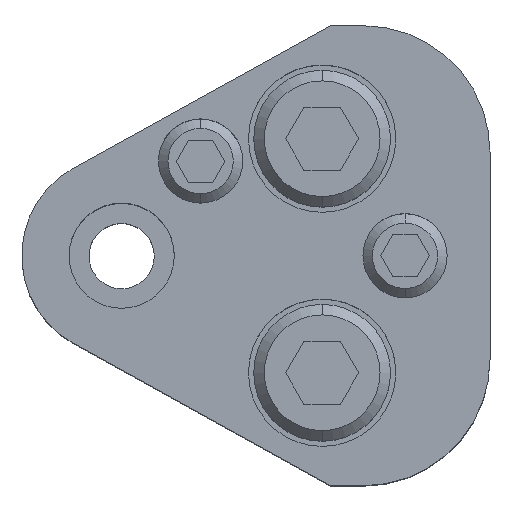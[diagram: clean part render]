
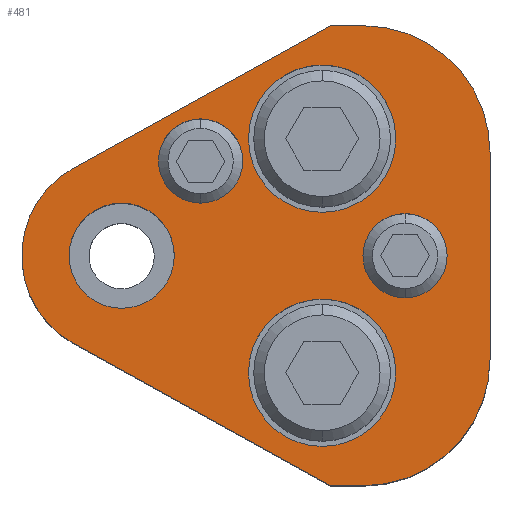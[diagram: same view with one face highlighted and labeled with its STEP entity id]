
A CAD part, top view. The second image highlights one B-rep face of the part: STEP entity #481.
In plain terms, the highlighted planar face has unit normal (0, 0, 1).
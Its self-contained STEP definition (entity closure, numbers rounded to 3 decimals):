
#213=FACE_BOUND('',#843,.T.);
#214=FACE_BOUND('',#844,.T.);
#215=FACE_BOUND('',#845,.T.);
#216=FACE_BOUND('',#846,.T.);
#217=FACE_BOUND('',#847,.T.);
#218=FACE_BOUND('',#848,.T.);
#303=CIRCLE('',#2712,12.);
#305=CIRCLE('',#2716,12.);
#308=CIRCLE('',#2722,9.5);
#309=CIRCLE('',#2724,4.);
#311=CIRCLE('',#2727,4.);
#313=CIRCLE('',#2730,4.);
#315=CIRCLE('',#2733,4.);
#325=CIRCLE('',#2748,7.);
#326=CIRCLE('',#2749,7.);
#327=CIRCLE('',#2750,7.);
#328=CIRCLE('',#2751,7.);
#329=CIRCLE('',#2752,5.);
#330=CIRCLE('',#2753,5.);
#481=ADVANCED_FACE('',(#213,#214,#215,#216,#217,#218),#595,.T.);
#595=PLANE('',#2754);
#843=EDGE_LOOP('',(#1257,#1258,#1259,#1260,#1261,#1262,#1263,#1264));
#844=EDGE_LOOP('',(#1265,#1266));
#845=EDGE_LOOP('',(#1267,#1268));
#846=EDGE_LOOP('',(#1269,#1270));
#847=EDGE_LOOP('',(#1271,#1272));
#848=EDGE_LOOP('',(#1273,#1274));
#1257=ORIENTED_EDGE('',*,*,#1996,.T.);
#1258=ORIENTED_EDGE('',*,*,#2000,.T.);
#1259=ORIENTED_EDGE('',*,*,#2003,.T.);
#1260=ORIENTED_EDGE('',*,*,#2006,.T.);
#1261=ORIENTED_EDGE('',*,*,#2009,.T.);
#1262=ORIENTED_EDGE('',*,*,#2012,.T.);
#1263=ORIENTED_EDGE('',*,*,#2015,.T.);
#1264=ORIENTED_EDGE('',*,*,#2018,.T.);
#1265=ORIENTED_EDGE('',*,*,#2043,.F.);
#1266=ORIENTED_EDGE('',*,*,#2044,.F.);
#1267=ORIENTED_EDGE('',*,*,#2045,.F.);
#1268=ORIENTED_EDGE('',*,*,#2046,.F.);
#1269=ORIENTED_EDGE('',*,*,#2029,.F.);
#1270=ORIENTED_EDGE('',*,*,#2025,.F.);
#1271=ORIENTED_EDGE('',*,*,#2023,.F.);
#1272=ORIENTED_EDGE('',*,*,#2019,.F.);
#1273=ORIENTED_EDGE('',*,*,#2047,.T.);
#1274=ORIENTED_EDGE('',*,*,#2048,.T.);
#1728=VERTEX_POINT('',#4024);
#1729=VERTEX_POINT('',#4026);
#1732=VERTEX_POINT('',#4033);
#1734=VERTEX_POINT('',#4039);
#1736=VERTEX_POINT('',#4045);
#1738=VERTEX_POINT('',#4051);
#1740=VERTEX_POINT('',#4057);
#1742=VERTEX_POINT('',#4063);
#1743=VERTEX_POINT('',#4071);
#1744=VERTEX_POINT('',#4072);
#1747=VERTEX_POINT('',#4083);
#1748=VERTEX_POINT('',#4084);
#1759=VERTEX_POINT('',#4119);
#1760=VERTEX_POINT('',#4120);
#1761=VERTEX_POINT('',#4123);
#1762=VERTEX_POINT('',#4124);
#1763=VERTEX_POINT('',#4127);
#1764=VERTEX_POINT('',#4128);
#1996=EDGE_CURVE('',#1729,#1728,#2294,.T.);
#2000=EDGE_CURVE('',#1728,#1732,#2298,.T.);
#2003=EDGE_CURVE('',#1732,#1734,#303,.T.);
#2006=EDGE_CURVE('',#1734,#1736,#2302,.T.);
#2009=EDGE_CURVE('',#1736,#1738,#305,.T.);
#2012=EDGE_CURVE('',#1738,#1740,#2306,.T.);
#2015=EDGE_CURVE('',#1740,#1742,#2309,.T.);
#2018=EDGE_CURVE('',#1742,#1729,#308,.T.);
#2019=EDGE_CURVE('',#1743,#1744,#309,.T.);
#2023=EDGE_CURVE('',#1744,#1743,#311,.T.);
#2025=EDGE_CURVE('',#1747,#1748,#313,.T.);
#2029=EDGE_CURVE('',#1748,#1747,#315,.T.);
#2043=EDGE_CURVE('',#1759,#1760,#325,.T.);
#2044=EDGE_CURVE('',#1760,#1759,#326,.T.);
#2045=EDGE_CURVE('',#1761,#1762,#327,.T.);
#2046=EDGE_CURVE('',#1762,#1761,#328,.T.);
#2047=EDGE_CURVE('',#1763,#1764,#329,.T.);
#2048=EDGE_CURVE('',#1764,#1763,#330,.T.);
#2294=LINE('',#4025,#2486);
#2298=LINE('',#4034,#2490);
#2302=LINE('',#4046,#2494);
#2306=LINE('',#4058,#2498);
#2309=LINE('',#4064,#2501);
#2486=VECTOR('',#3186,1.);
#2490=VECTOR('',#3192,1.);
#2494=VECTOR('',#3204,1.);
#2498=VECTOR('',#3216,1.);
#2501=VECTOR('',#3221,1.);
#2712=AXIS2_PLACEMENT_3D('',#4040,#3197,#3198);
#2716=AXIS2_PLACEMENT_3D('',#4052,#3209,#3210);
#2722=AXIS2_PLACEMENT_3D('',#4068,#3227,#3228);
#2724=AXIS2_PLACEMENT_3D('',#4070,#3231,#3232);
#2727=AXIS2_PLACEMENT_3D('',#4079,#3239,#3240);
#2730=AXIS2_PLACEMENT_3D('',#4082,#3245,#3246);
#2733=AXIS2_PLACEMENT_3D('',#4091,#3253,#3254);
#2748=AXIS2_PLACEMENT_3D('',#4118,#3287,#3288);
#2749=AXIS2_PLACEMENT_3D('',#4121,#3289,#3290);
#2750=AXIS2_PLACEMENT_3D('',#4122,#3291,#3292);
#2751=AXIS2_PLACEMENT_3D('',#4125,#3293,#3294);
#2752=AXIS2_PLACEMENT_3D('',#4126,#3295,#3296);
#2753=AXIS2_PLACEMENT_3D('',#4129,#3297,#3298);
#2754=AXIS2_PLACEMENT_3D('',#4130,#3299,#3300);
#3186=DIRECTION('',(0.875,-0.485,0.));
#3192=DIRECTION('',(1.,0.,0.));
#3197=DIRECTION('',(0.,0.,1.));
#3198=DIRECTION('',(-0.707,0.707,0.));
#3204=DIRECTION('',(0.,1.,0.));
#3209=DIRECTION('',(0.,0.,1.));
#3210=DIRECTION('',(-0.707,-0.707,0.));
#3216=DIRECTION('',(-1.,0.,0.));
#3221=DIRECTION('',(-0.875,-0.485,0.));
#3227=DIRECTION('',(0.,0.,1.));
#3228=DIRECTION('',(1.,0.,0.));
#3231=DIRECTION('',(0.,0.,1.));
#3232=DIRECTION('',(-1.,0.,0.));
#3239=DIRECTION('',(0.,0.,1.));
#3240=DIRECTION('',(1.,0.,0.));
#3245=DIRECTION('',(0.,0.,1.));
#3246=DIRECTION('',(-1.,0.,0.));
#3253=DIRECTION('',(0.,0.,1.));
#3254=DIRECTION('',(1.,0.,0.));
#3287=DIRECTION('',(0.,0.,1.));
#3288=DIRECTION('',(1.,0.,0.));
#3289=DIRECTION('',(0.,0.,1.));
#3290=DIRECTION('',(-1.,0.,0.));
#3291=DIRECTION('',(0.,0.,1.));
#3292=DIRECTION('',(1.,0.,0.));
#3293=DIRECTION('',(0.,0.,1.));
#3294=DIRECTION('',(-1.,0.,0.));
#3295=DIRECTION('',(0.,0.,-1.));
#3296=DIRECTION('',(-1.,0.,0.));
#3297=DIRECTION('',(0.,0.,-1.));
#3298=DIRECTION('',(1.,0.,0.));
#3299=DIRECTION('',(0.,0.,1.));
#3300=DIRECTION('',(-0.875,0.485,0.));
#4024=CARTESIAN_POINT('',(19.823,-21.85,30.));
#4025=CARTESIAN_POINT('',(19.823,-21.85,30.));
#4026=CARTESIAN_POINT('',(-4.606,-8.309,30.));
#4033=CARTESIAN_POINT('',(23.,-21.85,30.));
#4034=CARTESIAN_POINT('',(19.823,-21.85,30.));
#4039=CARTESIAN_POINT('',(35.,-9.85,30.));
#4040=CARTESIAN_POINT('',(23.,-9.85,30.));
#4045=CARTESIAN_POINT('',(35.,9.85,30.));
#4046=CARTESIAN_POINT('',(35.,9.85,30.));
#4051=CARTESIAN_POINT('',(23.,21.85,30.));
#4052=CARTESIAN_POINT('',(23.,9.85,30.));
#4057=CARTESIAN_POINT('',(19.823,21.85,30.));
#4058=CARTESIAN_POINT('',(19.823,21.85,30.));
#4063=CARTESIAN_POINT('',(-4.606,8.309,30.));
#4064=CARTESIAN_POINT('',(19.823,21.85,30.));
#4068=CARTESIAN_POINT('',(0.,0.,30.));
#4070=CARTESIAN_POINT('',(7.5,9.,30.));
#4071=CARTESIAN_POINT('',(7.5,5.,30.));
#4072=CARTESIAN_POINT('',(7.5,13.,30.));
#4079=CARTESIAN_POINT('',(7.5,9.,30.));
#4082=CARTESIAN_POINT('',(26.925,0.,30.));
#4083=CARTESIAN_POINT('',(26.925,-4.,30.));
#4084=CARTESIAN_POINT('',(26.925,4.,30.));
#4091=CARTESIAN_POINT('',(26.925,0.,30.));
#4118=CARTESIAN_POINT('',(19.05,11.12,30.));
#4119=CARTESIAN_POINT('',(19.05,18.12,30.));
#4120=CARTESIAN_POINT('',(19.05,4.12,30.));
#4121=CARTESIAN_POINT('',(19.05,11.12,30.));
#4122=CARTESIAN_POINT('',(19.05,-11.12,30.));
#4123=CARTESIAN_POINT('',(19.05,-4.12,30.));
#4124=CARTESIAN_POINT('',(19.05,-18.12,30.));
#4125=CARTESIAN_POINT('',(19.05,-11.12,30.));
#4126=CARTESIAN_POINT('',(0.,0.,30.));
#4127=CARTESIAN_POINT('',(0.,5.,30.));
#4128=CARTESIAN_POINT('',(0.,-5.,30.));
#4129=CARTESIAN_POINT('',(0.,0.,30.));
#4130=CARTESIAN_POINT('',(-4.606,-8.309,30.));
